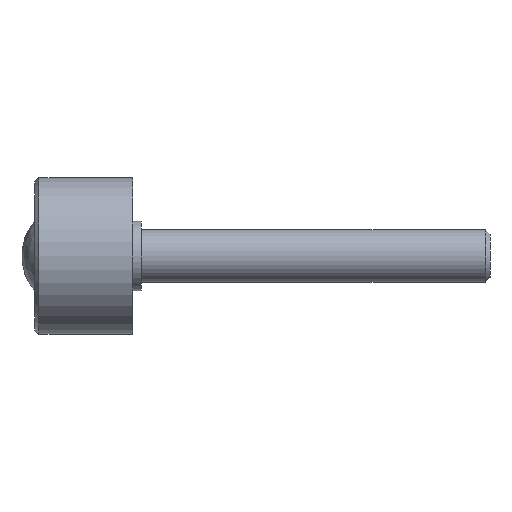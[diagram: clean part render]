
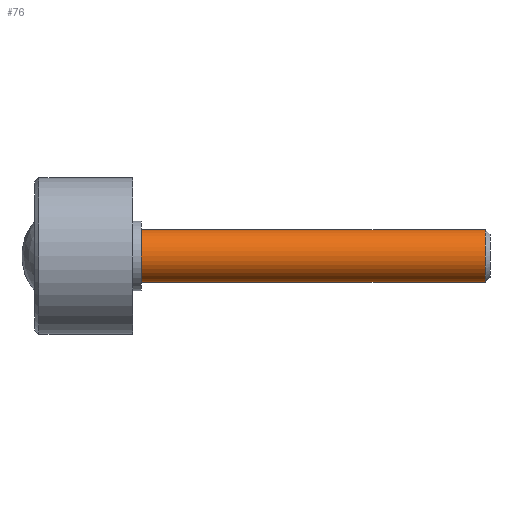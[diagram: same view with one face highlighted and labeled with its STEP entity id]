
A CAD part, left-side view. The second image highlights one B-rep face of the part: STEP entity #76.
In plain terms, the highlighted cylindrical face has radius 6 mm (diameter 12 mm), a full revolution.
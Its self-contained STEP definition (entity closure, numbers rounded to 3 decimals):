
#76 = ADVANCED_FACE( '', ( #93, #94 ), #95, .T. );
#93 = FACE_OUTER_BOUND( '', #134, .T. );
#94 = FACE_OUTER_BOUND( '', #135, .T. );
#95 = CYLINDRICAL_SURFACE( '', #136, 6. );
#134 = EDGE_LOOP( '', ( #177 ) );
#135 = EDGE_LOOP( '', ( #178 ) );
#136 = AXIS2_PLACEMENT_3D( '', #179, #180, #181 );
#177 = ORIENTED_EDGE( '', *, *, #242, .F. );
#178 = ORIENTED_EDGE( '', *, *, #243, .T. );
#179 = CARTESIAN_POINT( '', ( 0., -80., 0. ) );
#180 = DIRECTION( '', ( 0., 1., 0. ) );
#181 = DIRECTION( '', ( 0., 0., -1. ) );
#242 = EDGE_CURVE( '', #257, #257, #258, .T. );
#243 = EDGE_CURVE( '', #259, #259, #260, .T. );
#257 = VERTEX_POINT( '', #283 );
#258 = CIRCLE( '', #284, 6. );
#259 = VERTEX_POINT( '', #285 );
#260 = CIRCLE( '', #286, 6. );
#283 = CARTESIAN_POINT( '', ( 0., -78.927, -6. ) );
#284 = AXIS2_PLACEMENT_3D( '', #383, #384, #385 );
#285 = CARTESIAN_POINT( '', ( 0., 0., -6. ) );
#286 = AXIS2_PLACEMENT_3D( '', #386, #387, #388 );
#383 = CARTESIAN_POINT( '', ( 0., -78.927, 0. ) );
#384 = DIRECTION( '', ( 0., -1., 0. ) );
#385 = DIRECTION( '', ( 0., 0., -1. ) );
#386 = CARTESIAN_POINT( '', ( 0., 0., 0. ) );
#387 = DIRECTION( '', ( 0., -1., 0. ) );
#388 = DIRECTION( '', ( 0., 0., -1. ) );
